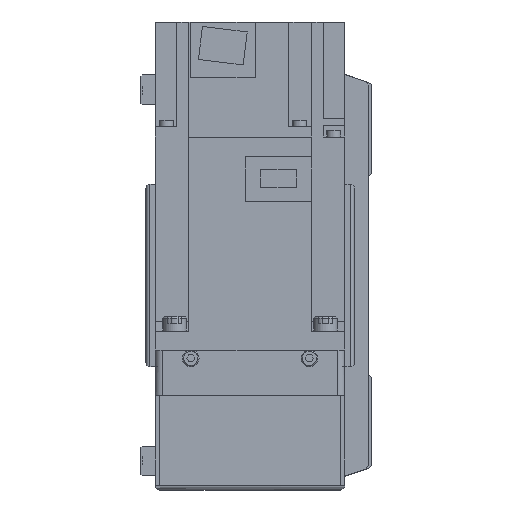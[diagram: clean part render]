
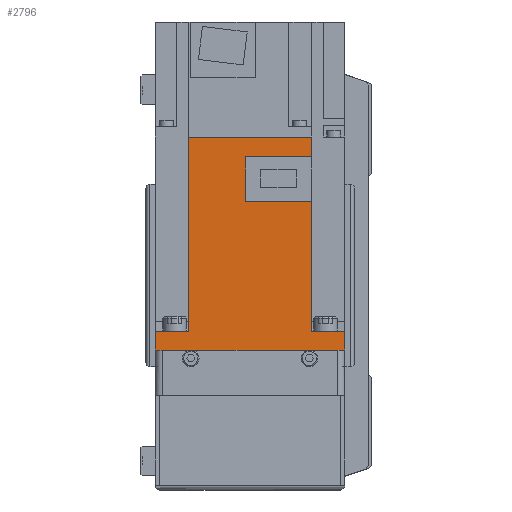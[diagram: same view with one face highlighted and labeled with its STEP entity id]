
A CAD part, left-side view. The second image highlights one B-rep face of the part: STEP entity #2796.
In plain terms, the highlighted planar face has unit normal (-1, 0, 0) as drawn and (1, 0, 0) by its records, which use the part's own axes.
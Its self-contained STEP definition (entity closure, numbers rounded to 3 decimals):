
#2796 = ADVANCED_FACE( '', ( #5899 ), #5900, .F. );
#5899 = FACE_OUTER_BOUND( '', #9207, .T. );
#5900 = PLANE( '', #9208 );
#9207 = EDGE_LOOP( '', ( #17156, #17157, #17158, #17159, #17160, #17161, #17162, #17163, #17164, #17165, #17166, #17167 ) );
#9208 = AXIS2_PLACEMENT_3D( '', #17168, #17169, #17170 );
#17156 = ORIENTED_EDGE( '', *, *, #20998, .F. );
#17157 = ORIENTED_EDGE( '', *, *, #19516, .F. );
#17158 = ORIENTED_EDGE( '', *, *, #20490, .F. );
#17159 = ORIENTED_EDGE( '', *, *, #22058, .T. );
#17160 = ORIENTED_EDGE( '', *, *, #20536, .F. );
#17161 = ORIENTED_EDGE( '', *, *, #22013, .T. );
#17162 = ORIENTED_EDGE( '', *, *, #22059, .T. );
#17163 = ORIENTED_EDGE( '', *, *, #21609, .F. );
#17164 = ORIENTED_EDGE( '', *, *, #21825, .F. );
#17165 = ORIENTED_EDGE( '', *, *, #19518, .F. );
#17166 = ORIENTED_EDGE( '', *, *, #22060, .F. );
#17167 = ORIENTED_EDGE( '', *, *, #21985, .F. );
#17168 = CARTESIAN_POINT( '', ( 40., 89.8, 40. ) );
#17169 = DIRECTION( '', ( -1., 0., 0. ) );
#17170 = DIRECTION( '', ( 0., 0., 1. ) );
#19516 = EDGE_CURVE( '', #23529, #23531, #23532, .T. );
#19518 = EDGE_CURVE( '', #23533, #23535, #23536, .T. );
#20490 = EDGE_CURVE( '', #25107, #23529, #25109, .T. );
#20536 = EDGE_CURVE( '', #25176, #25178, #25179, .T. );
#20998 = EDGE_CURVE( '', #23531, #25866, #25867, .T. );
#21609 = EDGE_CURVE( '', #26702, #26704, #26705, .T. );
#21825 = EDGE_CURVE( '', #23535, #26702, #26969, .T. );
#21985 = EDGE_CURVE( '', #25866, #27153, #27154, .T. );
#22013 = EDGE_CURVE( '', #25176, #27183, #27185, .T. );
#22058 = EDGE_CURVE( '', #25107, #25178, #27235, .T. );
#22059 = EDGE_CURVE( '', #27183, #26704, #27236, .T. );
#22060 = EDGE_CURVE( '', #27153, #23533, #27237, .T. );
#23529 = VERTEX_POINT( '', #29334 );
#23531 = VERTEX_POINT( '', #29337 );
#23532 = LINE( '', #29338, #29339 );
#23533 = VERTEX_POINT( '', #29340 );
#23535 = VERTEX_POINT( '', #29343 );
#23536 = LINE( '', #29344, #29345 );
#25107 = VERTEX_POINT( '', #31634 );
#25109 = LINE( '', #31637, #31638 );
#25176 = VERTEX_POINT( '', #31766 );
#25178 = VERTEX_POINT( '', #31769 );
#25179 = LINE( '', #31770, #31771 );
#25866 = VERTEX_POINT( '', #32769 );
#25867 = LINE( '', #32770, #32771 );
#26702 = VERTEX_POINT( '', #33970 );
#26704 = VERTEX_POINT( '', #33973 );
#26705 = LINE( '', #33974, #33975 );
#26969 = LINE( '', #34425, #34426 );
#27153 = VERTEX_POINT( '', #34712 );
#27154 = LINE( '', #34713, #34714 );
#27183 = VERTEX_POINT( '', #34760 );
#27185 = LINE( '', #34763, #34764 );
#27235 = LINE( '', #34840, #34841 );
#27236 = LINE( '', #34842, #34843 );
#27237 = LINE( '', #34844, #34845 );
#29334 = CARTESIAN_POINT( '', ( 40., 89.8, -25.95 ) );
#29337 = CARTESIAN_POINT( '', ( 40., 81.4, -25.95 ) );
#29338 = CARTESIAN_POINT( '', ( 40., 158., -25.95 ) );
#29339 = VECTOR( '', #36067, 1000. );
#29340 = CARTESIAN_POINT( '', ( 40., 62.8, -25.95 ) );
#29343 = CARTESIAN_POINT( '', ( 40., 8., -25.95 ) );
#29344 = CARTESIAN_POINT( '', ( 40., 158., -25.95 ) );
#29345 = VECTOR( '', #36069, 1000. );
#31634 = CARTESIAN_POINT( '', ( 40., 89.8, 25.95 ) );
#31637 = CARTESIAN_POINT( '', ( 40., 89.8, 40. ) );
#31638 = VECTOR( '', #37301, 1000. );
#31766 = CARTESIAN_POINT( '', ( 40., 8., 40. ) );
#31769 = CARTESIAN_POINT( '', ( 40., 8., 25.95 ) );
#31770 = CARTESIAN_POINT( '', ( 40., 8., 40. ) );
#31771 = VECTOR( '', #37350, 1000. );
#32769 = CARTESIAN_POINT( '', ( 40., 81.4, 1.8 ) );
#32770 = CARTESIAN_POINT( '', ( 40., 81.4, -26. ) );
#32771 = VECTOR( '', #37918, 1000. );
#33970 = CARTESIAN_POINT( '', ( 40., 8., -40. ) );
#33973 = CARTESIAN_POINT( '', ( 40., 0., -40. ) );
#33974 = CARTESIAN_POINT( '', ( 40., 89.8, -40. ) );
#33975 = VECTOR( '', #38615, 1000. );
#34425 = CARTESIAN_POINT( '', ( 40., 8., 40. ) );
#34426 = VECTOR( '', #38834, 1000. );
#34712 = CARTESIAN_POINT( '', ( 40., 62.8, 1.8 ) );
#34713 = CARTESIAN_POINT( '', ( 40., 81.4, 1.8 ) );
#34714 = VECTOR( '', #38985, 1000. );
#34760 = CARTESIAN_POINT( '', ( 40., 0., 40. ) );
#34763 = CARTESIAN_POINT( '', ( 40., 89.8, 40. ) );
#34764 = VECTOR( '', #39011, 1000. );
#34840 = CARTESIAN_POINT( '', ( 40., 158., 25.95 ) );
#34841 = VECTOR( '', #39043, 1000. );
#34842 = CARTESIAN_POINT( '', ( 40., 0., 40. ) );
#34843 = VECTOR( '', #39044, 1000. );
#34844 = CARTESIAN_POINT( '', ( 40., 62.8, 1.8 ) );
#34845 = VECTOR( '', #39045, 1000. );
#36067 = DIRECTION( '', ( 0., -1., 0. ) );
#36069 = DIRECTION( '', ( 0., -1., 0. ) );
#37301 = DIRECTION( '', ( 0., 0., -1. ) );
#37350 = DIRECTION( '', ( 0., 0., -1. ) );
#37918 = DIRECTION( '', ( 0., 0., 1. ) );
#38615 = DIRECTION( '', ( 0., -1., 0. ) );
#38834 = DIRECTION( '', ( 0., 0., -1. ) );
#38985 = DIRECTION( '', ( 0., -1., 0. ) );
#39011 = DIRECTION( '', ( 0., -1., 0. ) );
#39043 = DIRECTION( '', ( 0., -1., 0. ) );
#39044 = DIRECTION( '', ( 0., 0., -1. ) );
#39045 = DIRECTION( '', ( 0., 0., -1. ) );
